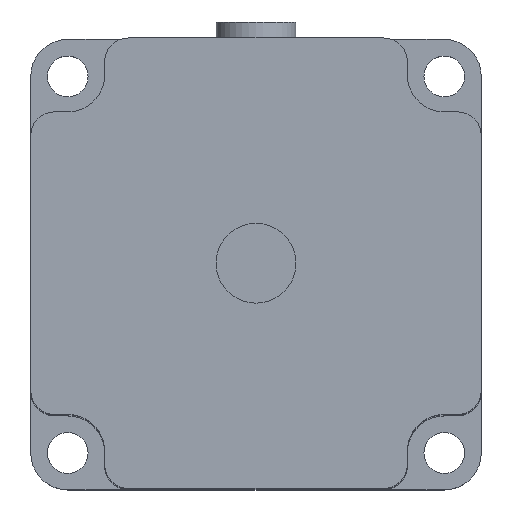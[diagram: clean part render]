
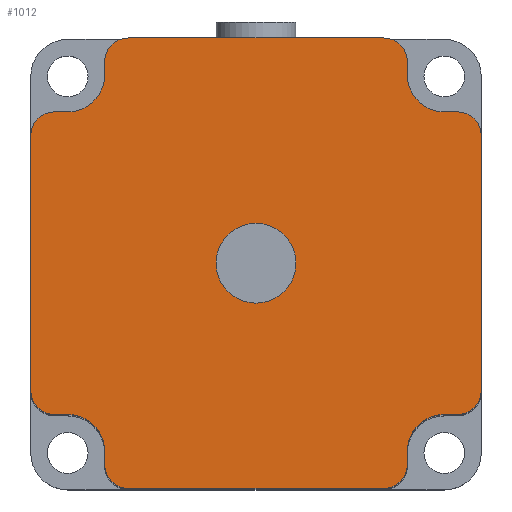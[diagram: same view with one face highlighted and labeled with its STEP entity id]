
A CAD part, top view. The second image highlights one B-rep face of the part: STEP entity #1012.
In plain terms, the highlighted planar face has unit normal (0, 0, 1).
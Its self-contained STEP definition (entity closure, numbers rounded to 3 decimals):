
#1012=ADVANCED_FACE('',(#5173,#5175),#5177,.T.);
#5173=FACE_BOUND('',#5174,.T.);
#5174=EDGE_LOOP('',(#8505,#8506,#8507,#8508,#8509,#8510,#8511,#8512,#8513,#8514,
#8515,#8516,#8517,#8518,#8519,#8520,#8521,#8522,#8523,#8524,#8525,#8526,#8527,#8528));
#5175=FACE_BOUND('',#5176,.T.);
#5176=EDGE_LOOP('',(#8529));
#5177=PLANE('',#5178);
#5178=AXIS2_PLACEMENT_3D('',#5179,#5180,#5181);
#5179=CARTESIAN_POINT('',(0.,0.,110.));
#5180=DIRECTION('',(0.,0.,1.));
#5181=DIRECTION('',(1.,0.,0.));
#8505=ORIENTED_EDGE('',*,*,#10920,.F.);
#8506=ORIENTED_EDGE('',*,*,#10918,.T.);
#8507=ORIENTED_EDGE('',*,*,#10916,.F.);
#8508=ORIENTED_EDGE('',*,*,#10914,.T.);
#8509=ORIENTED_EDGE('',*,*,#10912,.T.);
#8510=ORIENTED_EDGE('',*,*,#10910,.T.);
#8511=ORIENTED_EDGE('',*,*,#10908,.F.);
#8512=ORIENTED_EDGE('',*,*,#10902,.T.);
#8513=ORIENTED_EDGE('',*,*,#10952,.F.);
#8514=ORIENTED_EDGE('',*,*,#10950,.T.);
#8515=ORIENTED_EDGE('',*,*,#10948,.T.);
#8516=ORIENTED_EDGE('',*,*,#10946,.T.);
#8517=ORIENTED_EDGE('',*,*,#10944,.F.);
#8518=ORIENTED_EDGE('',*,*,#10942,.T.);
#8519=ORIENTED_EDGE('',*,*,#10940,.F.);
#8520=ORIENTED_EDGE('',*,*,#10938,.T.);
#8521=ORIENTED_EDGE('',*,*,#10936,.T.);
#8522=ORIENTED_EDGE('',*,*,#10934,.T.);
#8523=ORIENTED_EDGE('',*,*,#10932,.F.);
#8524=ORIENTED_EDGE('',*,*,#10930,.T.);
#8525=ORIENTED_EDGE('',*,*,#10928,.F.);
#8526=ORIENTED_EDGE('',*,*,#10926,.T.);
#8527=ORIENTED_EDGE('',*,*,#10924,.T.);
#8528=ORIENTED_EDGE('',*,*,#10922,.T.);
#8529=ORIENTED_EDGE('',*,*,#11234,.T.);
#10902=EDGE_CURVE('',#12348,#12346,#12349,.T.);
#10908=EDGE_CURVE('',#12348,#12359,#12360,.T.);
#10910=EDGE_CURVE('',#12362,#12359,#12363,.F.);
#10912=EDGE_CURVE('',#12365,#12362,#12366,.F.);
#10914=EDGE_CURVE('',#12368,#12365,#12369,.F.);
#10916=EDGE_CURVE('',#12368,#12371,#12372,.T.);
#10918=EDGE_CURVE('',#12374,#12371,#12375,.T.);
#10920=EDGE_CURVE('',#12374,#12377,#12378,.T.);
#10922=EDGE_CURVE('',#12380,#12377,#12381,.F.);
#10924=EDGE_CURVE('',#12383,#12380,#12384,.F.);
#10926=EDGE_CURVE('',#12386,#12383,#12387,.F.);
#10928=EDGE_CURVE('',#12386,#12389,#12390,.T.);
#10930=EDGE_CURVE('',#12392,#12389,#12393,.T.);
#10932=EDGE_CURVE('',#12392,#12395,#12396,.T.);
#10934=EDGE_CURVE('',#12398,#12395,#12399,.F.);
#10936=EDGE_CURVE('',#12401,#12398,#12402,.F.);
#10938=EDGE_CURVE('',#12404,#12401,#12405,.F.);
#10940=EDGE_CURVE('',#12404,#12407,#12408,.T.);
#10942=EDGE_CURVE('',#12410,#12407,#12411,.T.);
#10944=EDGE_CURVE('',#12410,#12413,#12414,.T.);
#10946=EDGE_CURVE('',#12416,#12413,#12417,.F.);
#10948=EDGE_CURVE('',#12419,#12416,#12420,.F.);
#10950=EDGE_CURVE('',#12422,#12419,#12423,.F.);
#10952=EDGE_CURVE('',#12422,#12346,#12425,.T.);
#11234=EDGE_CURVE('',#12988,#12988,#12989,.F.);
#12346=VERTEX_POINT('',#15145);
#12348=VERTEX_POINT('',#15149);
#12349=LINE('',#15150,#15151);
#12359=VERTEX_POINT('',#15173);
#12360=CIRCLE('',#15174,3.);
#12362=VERTEX_POINT('',#15181);
#12363=LINE('',#15182,#15183);
#12365=VERTEX_POINT('',#15188);
#12366=CIRCLE('',#15189,4.63);
#12368=VERTEX_POINT('',#15196);
#12369=LINE('',#15197,#15198);
#12371=VERTEX_POINT('',#15203);
#12372=CIRCLE('',#15204,3.);
#12374=VERTEX_POINT('',#15211);
#12375=LINE('',#15212,#15213);
#12377=VERTEX_POINT('',#15218);
#12378=CIRCLE('',#15219,3.);
#12380=VERTEX_POINT('',#15226);
#12381=LINE('',#15227,#15228);
#12383=VERTEX_POINT('',#15233);
#12384=CIRCLE('',#15234,4.63);
#12386=VERTEX_POINT('',#15241);
#12387=LINE('',#15242,#15243);
#12389=VERTEX_POINT('',#15248);
#12390=CIRCLE('',#15249,3.);
#12392=VERTEX_POINT('',#15256);
#12393=LINE('',#15257,#15258);
#12395=VERTEX_POINT('',#15263);
#12396=CIRCLE('',#15264,3.);
#12398=VERTEX_POINT('',#15271);
#12399=LINE('',#15272,#15273);
#12401=VERTEX_POINT('',#15278);
#12402=CIRCLE('',#15279,4.63);
#12404=VERTEX_POINT('',#15286);
#12405=LINE('',#15287,#15288);
#12407=VERTEX_POINT('',#15293);
#12408=CIRCLE('',#15294,3.);
#12410=VERTEX_POINT('',#15301);
#12411=LINE('',#15302,#15303);
#12413=VERTEX_POINT('',#15308);
#12414=CIRCLE('',#15309,3.);
#12416=VERTEX_POINT('',#15316);
#12417=LINE('',#15317,#15318);
#12419=VERTEX_POINT('',#15323);
#12420=CIRCLE('',#15324,4.63);
#12422=VERTEX_POINT('',#15331);
#12423=LINE('',#15332,#15333);
#12425=CIRCLE('',#15338,3.);
#12988=VERTEX_POINT('',#16527);
#12989=CIRCLE('',#16528,5.);
#15145=CARTESIAN_POINT('',(-15.94,28.2,110.));
#15149=CARTESIAN_POINT('',(15.94,28.2,110.));
#15150=CARTESIAN_POINT('',(15.94,28.2,110.));
#15151=VECTOR('',#15152,1.);
#15152=DIRECTION('',(-1.,0.,0.));
#15173=CARTESIAN_POINT('',(18.94,25.2,110.));
#15174=AXIS2_PLACEMENT_3D('',#15175,#15176,#15177);
#15175=CARTESIAN_POINT('',(15.94,25.2,110.));
#15176=DIRECTION('',(0.,0.,-1.));
#15177=DIRECTION('',(0.,1.,0.));
#15181=CARTESIAN_POINT('',(18.94,23.57,110.));
#15182=CARTESIAN_POINT('',(18.94,25.2,110.));
#15183=VECTOR('',#15184,1.);
#15184=DIRECTION('',(0.,-1.,0.));
#15188=CARTESIAN_POINT('',(23.57,18.94,110.));
#15189=AXIS2_PLACEMENT_3D('',#15190,#15191,#15192);
#15190=CARTESIAN_POINT('',(23.57,23.57,110.));
#15191=DIRECTION('',(0.,0.,1.));
#15192=DIRECTION('',(-1.,0.,0.));
#15196=CARTESIAN_POINT('',(25.2,18.94,110.));
#15197=CARTESIAN_POINT('',(23.57,18.94,110.));
#15198=VECTOR('',#15199,1.);
#15199=DIRECTION('',(1.,0.,0.));
#15203=CARTESIAN_POINT('',(28.2,15.94,110.));
#15204=AXIS2_PLACEMENT_3D('',#15205,#15206,#15207);
#15205=CARTESIAN_POINT('',(25.2,15.94,110.));
#15206=DIRECTION('',(0.,0.,-1.));
#15207=DIRECTION('',(0.,1.,0.));
#15211=CARTESIAN_POINT('',(28.2,-15.94,110.));
#15212=CARTESIAN_POINT('',(28.2,-15.94,110.));
#15213=VECTOR('',#15214,1.);
#15214=DIRECTION('',(0.,1.,0.));
#15218=CARTESIAN_POINT('',(25.2,-18.94,110.));
#15219=AXIS2_PLACEMENT_3D('',#15220,#15221,#15222);
#15220=CARTESIAN_POINT('',(25.2,-15.94,110.));
#15221=DIRECTION('',(0.,0.,-1.));
#15222=DIRECTION('',(1.,0.,0.));
#15226=CARTESIAN_POINT('',(23.57,-18.94,110.));
#15227=CARTESIAN_POINT('',(25.2,-18.94,110.));
#15228=VECTOR('',#15229,1.);
#15229=DIRECTION('',(-1.,0.,0.));
#15233=CARTESIAN_POINT('',(18.94,-23.57,110.));
#15234=AXIS2_PLACEMENT_3D('',#15235,#15236,#15237);
#15235=CARTESIAN_POINT('',(23.57,-23.57,110.));
#15236=DIRECTION('',(0.,-0.,1.));
#15237=DIRECTION('',(0.,1.,0.));
#15241=CARTESIAN_POINT('',(18.94,-25.2,110.));
#15242=CARTESIAN_POINT('',(18.94,-23.57,110.));
#15243=VECTOR('',#15244,1.);
#15244=DIRECTION('',(0.,-1.,0.));
#15248=CARTESIAN_POINT('',(15.94,-28.2,110.));
#15249=AXIS2_PLACEMENT_3D('',#15250,#15251,#15252);
#15250=CARTESIAN_POINT('',(15.94,-25.2,110.));
#15251=DIRECTION('',(0.,0.,-1.));
#15252=DIRECTION('',(1.,0.,0.));
#15256=CARTESIAN_POINT('',(-15.94,-28.2,110.));
#15257=CARTESIAN_POINT('',(-15.94,-28.2,110.));
#15258=VECTOR('',#15259,1.);
#15259=DIRECTION('',(1.,0.,0.));
#15263=CARTESIAN_POINT('',(-18.94,-25.2,110.));
#15264=AXIS2_PLACEMENT_3D('',#15265,#15266,#15267);
#15265=CARTESIAN_POINT('',(-15.94,-25.2,110.));
#15266=DIRECTION('',(0.,0.,-1.));
#15267=DIRECTION('',(0.,-1.,0.));
#15271=CARTESIAN_POINT('',(-18.94,-23.57,110.));
#15272=CARTESIAN_POINT('',(-18.94,-25.2,110.));
#15273=VECTOR('',#15274,1.);
#15274=DIRECTION('',(0.,1.,0.));
#15278=CARTESIAN_POINT('',(-23.57,-18.94,110.));
#15279=AXIS2_PLACEMENT_3D('',#15280,#15281,#15282);
#15280=CARTESIAN_POINT('',(-23.57,-23.57,110.));
#15281=DIRECTION('',(0.,0.,1.));
#15282=DIRECTION('',(1.,0.,0.));
#15286=CARTESIAN_POINT('',(-25.2,-18.94,110.));
#15287=CARTESIAN_POINT('',(-23.57,-18.94,110.));
#15288=VECTOR('',#15289,1.);
#15289=DIRECTION('',(-1.,0.,0.));
#15293=CARTESIAN_POINT('',(-28.2,-15.94,110.));
#15294=AXIS2_PLACEMENT_3D('',#15295,#15296,#15297);
#15295=CARTESIAN_POINT('',(-25.2,-15.94,110.));
#15296=DIRECTION('',(0.,0.,-1.));
#15297=DIRECTION('',(0.,-1.,0.));
#15301=CARTESIAN_POINT('',(-28.2,15.94,110.));
#15302=CARTESIAN_POINT('',(-28.2,15.94,110.));
#15303=VECTOR('',#15304,1.);
#15304=DIRECTION('',(0.,-1.,0.));
#15308=CARTESIAN_POINT('',(-25.2,18.94,110.));
#15309=AXIS2_PLACEMENT_3D('',#15310,#15311,#15312);
#15310=CARTESIAN_POINT('',(-25.2,15.94,110.));
#15311=DIRECTION('',(0.,0.,-1.));
#15312=DIRECTION('',(-1.,0.,0.));
#15316=CARTESIAN_POINT('',(-23.57,18.94,110.));
#15317=CARTESIAN_POINT('',(-25.2,18.94,110.));
#15318=VECTOR('',#15319,1.);
#15319=DIRECTION('',(1.,0.,0.));
#15323=CARTESIAN_POINT('',(-18.94,23.57,110.));
#15324=AXIS2_PLACEMENT_3D('',#15325,#15326,#15327);
#15325=CARTESIAN_POINT('',(-23.57,23.57,110.));
#15326=DIRECTION('',(-0.,0.,1.));
#15327=DIRECTION('',(0.,-1.,0.));
#15331=CARTESIAN_POINT('',(-18.94,25.2,110.));
#15332=CARTESIAN_POINT('',(-18.94,23.57,110.));
#15333=VECTOR('',#15334,1.);
#15334=DIRECTION('',(0.,1.,0.));
#15338=AXIS2_PLACEMENT_3D('',#15339,#15340,#15341);
#15339=CARTESIAN_POINT('',(-15.94,25.2,110.));
#15340=DIRECTION('',(0.,0.,-1.));
#15341=DIRECTION('',(-1.,0.,0.));
#16527=CARTESIAN_POINT('',(5.,0.,110.));
#16528=AXIS2_PLACEMENT_3D('',#16529,#16530,#16531);
#16529=CARTESIAN_POINT('',(0.,0.,110.));
#16530=DIRECTION('',(0.,0.,1.));
#16531=DIRECTION('',(1.,0.,0.));
